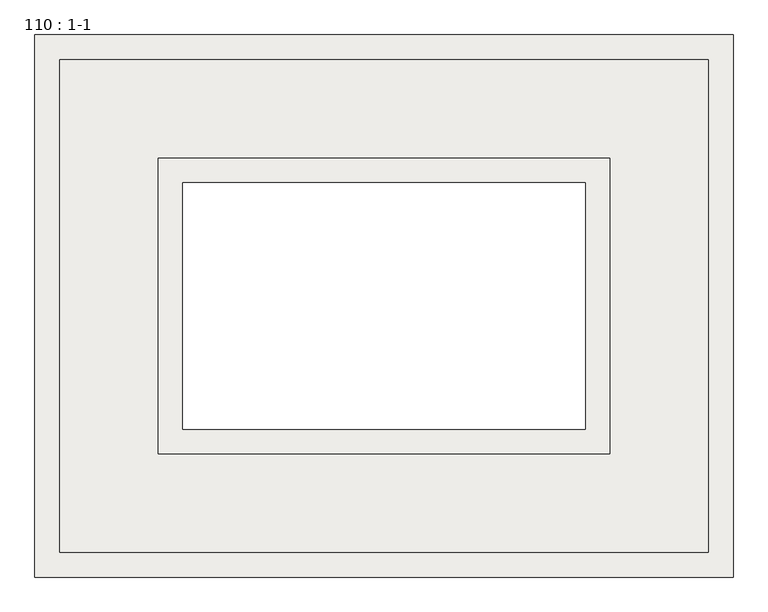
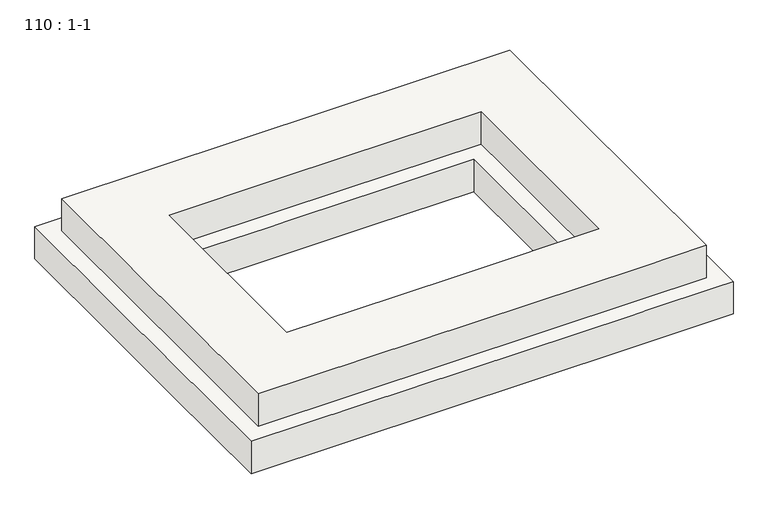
"""IFC4 building model written with IfcOpenShell, lengths in millimetres: slab geometry, 110 : 1-1."""

from ifc_helpers import new_model, si_unit, origin, place, context, project, spatial, faceted_brep, source, transform, mapped, element, save


def slab_110_1_1_90071cbc(model_context):
    return source(origin(), model_context, "Body", "Brep", [
        faceted_brep([(-9078.0662967, 1095.6780218, -900.0), (-9078.0662967, 1095.6780218, -1200.0), (-9078.0662967, -404.3219782, -1200.0), (-9078.0662967, -404.3219782, -900.0), (-8928.0662967, 1245.6780218, -600.0), (-8928.0662967, 1245.6780218, -900.0), (-8928.0662967, -554.3219782, -900.0), (-8928.0662967, -554.3219782, -600.0), (-8328.0662967, 1845.6780218, -900.0), (-8328.0662967, 1845.6780218, -600.0), (-8328.0662967, -1154.3219782, -600.0), (-8328.0662967, -1154.3219782, -900.0), (-8178.0662967, 1995.6780218, -1200.0), (-8178.0662967, 1995.6780218, -900.0), (-8178.0662967, -1304.3219782, -900.0), (-8178.0662967, -1304.3219782, -1200.0), (-9978.0662967, -404.3219782, -1200.0), (-10878.0662967, -404.3219782, -1200.0), (-11528.0662967, -404.3219782, -1200.0), (-11528.0662967, -404.3219782, -900.0), (-10878.0662967, -404.3219782, -900.0), (-10728.0662967, -404.3219782, -900.0), (-10128.0662967, -404.3219782, -900.0), (-9978.0662967, -404.3219782, -900.0), (-10128.0662967, -554.3219782, -900.0), (-10728.0662967, -554.3219782, -900.0), (-11678.0662967, -554.3219782, -900.0), (-11678.0662967, -554.3219782, -600.0), (-10728.0662967, -554.3219782, -600.0), (-10128.0662967, -554.3219782, -600.0), (-8928.0662967, -1154.3219782, -600.0), (-12278.0662967, -1154.3219782, -600.0), (-12278.0662967, -1154.3219782, -900.0), (-8928.0662967, -1154.3219782, -900.0), (-8328.0662967, -1304.3219782, -900.0), (-8928.0662967, -1304.3219782, -900.0), (-9078.0662967, -1304.3219782, -900.0), (-12428.0662967, -1304.3219782, -900.0), (-12428.0662967, -1304.3219782, -1200.0), (-9078.0662967, -1304.3219782, -1200.0), (-11528.0662967, 1095.6780218, -1200.0), (-11528.0662967, 1095.6780218, -900.0), (-11678.0662967, 1245.6780218, -900.0), (-11678.0662967, 1245.6780218, -600.0), (-12278.0662967, 45.6780218, -600.0), (-12278.0662967, 645.6780218, -600.0), (-12278.0662967, 1845.6780218, -600.0), (-12278.0662967, 1845.6780218, -900.0), (-12278.0662967, 645.6780218, -900.0), (-12278.0662967, 45.6780218, -900.0), (-12428.0662967, -104.3219782, -900.0), (-12428.0662967, 45.6780218, -900.0), (-12428.0662967, 645.6780218, -900.0), (-12428.0662967, 795.6780218, -900.0), (-12428.0662967, 1995.6780218, -900.0), (-12428.0662967, 1995.6780218, -1200.0), (-12428.0662967, 795.6780218, -1200.0), (-12428.0662967, -104.3219782, -1200.0), (-9978.0662967, 1095.6780218, -1200.0), (-10878.0662967, 1095.6780218, -1200.0), (-9978.0662967, 1095.6780218, -900.0), (-10128.0662967, 1095.6780218, -900.0), (-10728.0662967, 1095.6780218, -900.0), (-10878.0662967, 1095.6780218, -900.0), (-10128.0662967, 1245.6780218, -900.0), (-10728.0662967, 1245.6780218, -900.0), (-10128.0662967, 1245.6780218, -600.0), (-10728.0662967, 1245.6780218, -600.0)], [[[0, 1, 2, 3]], [[4, 5, 6, 7]], [[8, 9, 10, 11]], [[12, 13, 14, 15]], [[3, 2, 16, 17, 18, 19, 20, 21, 22, 23]], [[7, 6, 24, 25, 26, 27, 28, 29]], [[11, 10, 30, 31, 32, 33]], [[15, 14, 34, 35, 36, 37, 38, 39]], [[19, 18, 40, 41]], [[27, 26, 42, 43]], [[32, 31, 44, 45, 46, 47, 48, 49]], [[38, 37, 50, 51, 52, 53, 54, 55, 56, 57]], [[15, 39, 38, 57, 56, 55, 12], [1, 58, 59, 40, 18, 17, 16, 2]], [[41, 40, 59, 58, 1, 0, 60, 61, 62, 63]], [[5, 64, 65, 42, 26, 25, 24, 6], [3, 23, 22, 21, 20, 19, 41, 63, 62, 61, 60, 0]], [[43, 42, 65, 64, 5, 4, 66, 67]], [[9, 46, 45, 44, 31, 30, 10], [7, 29, 28, 27, 43, 67, 66, 4]], [[47, 46, 9, 8]], [[13, 54, 53, 52, 51, 50, 37, 36, 35, 34, 14], [11, 33, 32, 49, 48, 47, 8]], [[55, 54, 13, 12]]]),
    ])


if __name__ == "__main__":
    model = new_model("IFC4")
    model_context = context("Model", 3, world=origin())
    ifc_project = project(units=[si_unit("LENGTHUNIT", "METRE", prefix="MILLI")], contexts=[model_context])
    site = spatial("IfcSite", under=ifc_project)
    building = spatial("IfcBuilding", under=site)
    placement = place(None, origin())
    slab_110_1_1_shape = slab_110_1_1_90071cbc(model_context)
    element("IfcSlab", 1, ObjectType="110 : 1-1", at=placement, inside=building, context=model_context, shape_type="MappedRepresentation", body=[
        mapped(slab_110_1_1_shape, transform((0.0, 0.0, 0.0), x_axis=(1.0, 0.0, 0.0), y_axis=(0.0, 1.0, 0.0), z_axis=(0.0, 0.0, 1.0))),
    ])
    save(model, "model.ifc")
